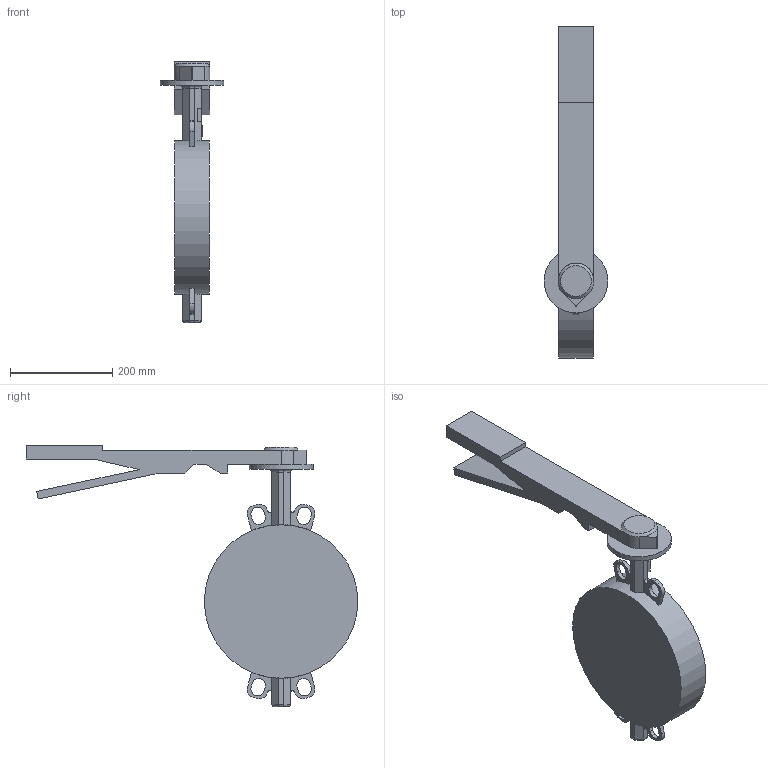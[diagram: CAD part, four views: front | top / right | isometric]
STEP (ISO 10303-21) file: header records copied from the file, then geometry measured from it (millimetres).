
FILE_DESCRIPTION(/* description */ (''),/* implementation_level */ '2;1');
FILE_NAME(/* name */ 'DN250-.stp',/* time_stamp */ '2026-08-17T11:10:57+08:00',/* author */ (''),/* organization */ (''),/* preprocessor_version */ 'ST-DEVELOPER v16.7',/* originating_system */ 'SIEMENS PLM Software NX 12.0',/* authorisation */ '');
FILE_SCHEMA (('AUTOMOTIVE_DESIGN { 1 0 10303 214 3 1 1 1 }'));
Length unit declared in the file: millimetre
Products named in the file (2): 8-12寸手柄; DN250
Assembly tree (1 placements, depth 2):
  DN250
    8-12寸手柄
Bounding box: 125 x 648.35 x 511.63 mm (x, y, z)
Volume: 6552039.9 mm3; surface area: 415087.4 mm2
Topology: 7 solids, 7 shells, 227 faces, 610 edges, 400 vertices
Faces by surface type: plane 115, extrusion 67, cylinder 44, cone 1
Full cylindrical faces by diameter (mm): 125 x1, 300 x1
Entity records: 7434 total; most frequent: CARTESIAN_POINT 1837, ORIENTED_EDGE 1212, DIRECTION 961, EDGE_CURVE 606, VECTOR 441, VERTEX_POINT 399, LINE 374, AXIS2_PLACEMENT_3D 260
